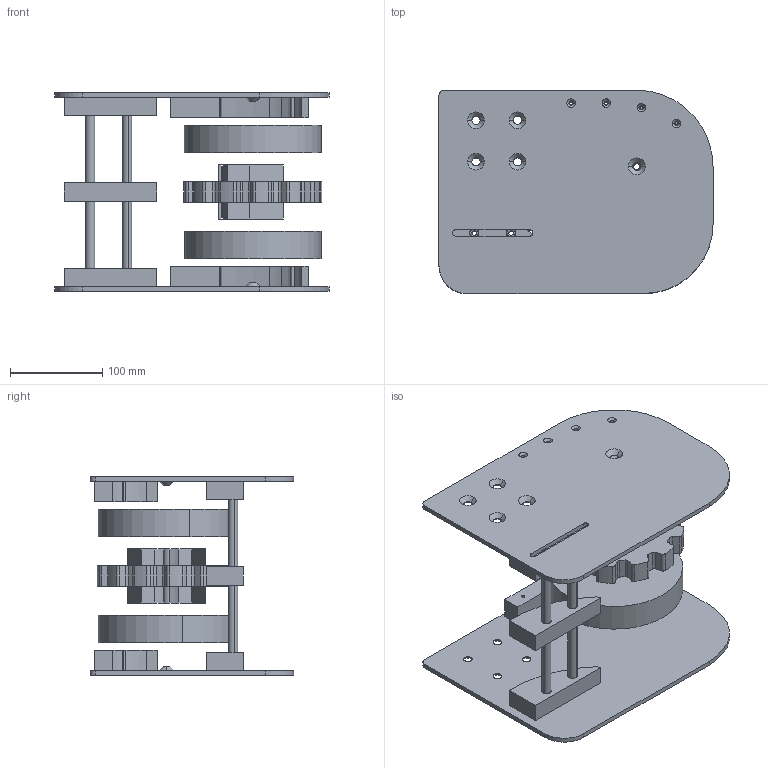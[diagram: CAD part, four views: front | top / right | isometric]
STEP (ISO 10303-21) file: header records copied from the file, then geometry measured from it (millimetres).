
FILE_DESCRIPTION (( 'STEP AP203' ), '1' );
FILE_NAME ('2000.750.200.STEP', '2016-01-13T13:39:38', ( 'SICO-SERVICE' ), ( 'Hewlett-Packard Company' ), 'SwSTEP 2.0', 'SolidWorks 2016', '' );
FILE_SCHEMA (( 'CONFIG_CONTROL_DESIGN' ));
Length unit declared in the file: millimetre
Products named in the file (1): 2000.750.200
Bounding box: 296.5 x 220 x 215 mm (x, y, z)
Surface area: 465874.4 mm2 (no closed solid volume)
Topology: 0 solids, 14 shells, 305 faces, 853 edges, 568 vertices
Faces by surface type: cylinder 163, plane 94, cone 48
Entity records: 10077 total; most frequent: DIRECTION 1871, CARTESIAN_POINT 1727, ORIENTED_EDGE 1592, EDGE_CURVE 853, AXIS2_PLACEMENT_3D 712, VERTEX_POINT 568, VECTOR 447, LINE 447
